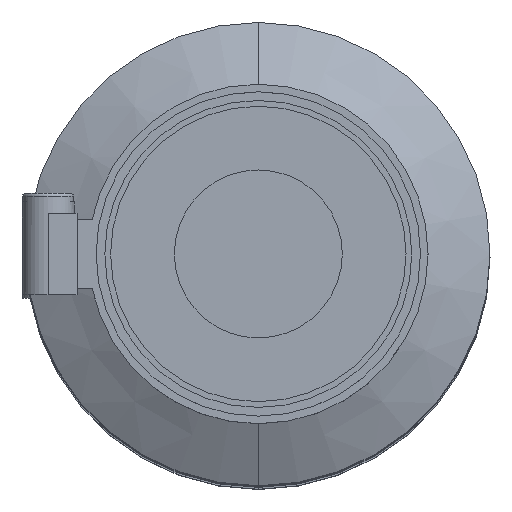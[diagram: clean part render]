
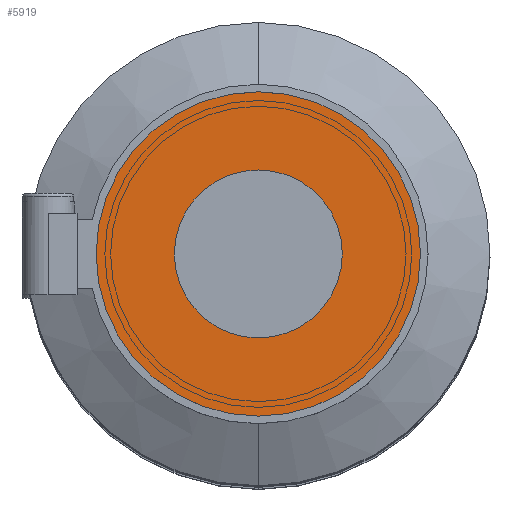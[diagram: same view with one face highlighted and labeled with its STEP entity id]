
A CAD part, top view. The second image highlights one B-rep face of the part: STEP entity #5919.
In plain terms, the highlighted planar face has unit normal (0, 0, 1).
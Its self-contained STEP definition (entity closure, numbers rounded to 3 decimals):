
#56 = CARTESIAN_POINT ( 'NONE',  ( -14.5, 0., -108. ) ) ;
#124 = EDGE_CURVE ( 'NONE', #4597, #7573, #924, .T. ) ;
#424 = CARTESIAN_POINT ( 'NONE',  ( 14.5, 0., -108. ) ) ;
#684 = CARTESIAN_POINT ( 'NONE',  ( -28., 0., -108. ) ) ;
#726 = VERTEX_POINT ( 'NONE', #56 ) ;
#924 = CIRCLE ( 'NONE', #7417, 28. ) ;
#1082 = EDGE_CURVE ( 'NONE', #7573, #4597, #1209, .T. ) ;
#1209 = CIRCLE ( 'NONE', #3450, 28. ) ;
#1380 = EDGE_CURVE ( 'NONE', #1626, #726, #7886, .T. ) ;
#1521 = CARTESIAN_POINT ( 'NONE',  ( 28., 0., -108. ) ) ;
#1626 = VERTEX_POINT ( 'NONE', #424 ) ;
#1711 = EDGE_LOOP ( 'NONE', ( #2153, #5871 ) ) ;
#1796 = DIRECTION ( 'NONE',  ( 0., 0., -1. ) ) ;
#2153 = ORIENTED_EDGE ( 'NONE', *, *, #1082, .F. ) ;
#2604 = EDGE_LOOP ( 'NONE', ( #7574, #4488 ) ) ;
#2624 = CARTESIAN_POINT ( 'NONE',  ( 0., 0., -108. ) ) ;
#2685 = DIRECTION ( 'NONE',  ( -1., 0., 0. ) ) ;
#3118 = DIRECTION ( 'NONE',  ( -1., 0., 0. ) ) ;
#3135 = FACE_BOUND ( 'NONE', #2604, .T. ) ;
#3246 = DIRECTION ( 'NONE',  ( 0., 0., -1. ) ) ;
#3334 = DIRECTION ( 'NONE',  ( -1., 0., 0. ) ) ;
#3450 = AXIS2_PLACEMENT_3D ( 'NONE', #5587, #1796, #6775 ) ;
#3754 = DIRECTION ( 'NONE',  ( -1., 0., 0. ) ) ;
#3773 = CARTESIAN_POINT ( 'NONE',  ( 0., 0., -108. ) ) ;
#4488 = ORIENTED_EDGE ( 'NONE', *, *, #7981, .T. ) ;
#4597 = VERTEX_POINT ( 'NONE', #684 ) ;
#5059 = PLANE ( 'NONE',  #5435 ) ;
#5080 = AXIS2_PLACEMENT_3D ( 'NONE', #2624, #7640, #3334 ) ;
#5435 = AXIS2_PLACEMENT_3D ( 'NONE', #3773, #5613, #3754 ) ;
#5587 = CARTESIAN_POINT ( 'NONE',  ( 0., 0., -108. ) ) ;
#5613 = DIRECTION ( 'NONE',  ( 0., 0., -1. ) ) ;
#5633 = DIRECTION ( 'NONE',  ( 0., 0., -1. ) ) ;
#5871 = ORIENTED_EDGE ( 'NONE', *, *, #124, .F. ) ;
#5919 = ADVANCED_FACE ( 'NONE', ( #6459, #3135 ), #5059, .F. ) ;
#6053 = CIRCLE ( 'NONE', #6991, 14.5 ) ;
#6459 = FACE_OUTER_BOUND ( 'NONE', #1711, .T. ) ;
#6477 = CARTESIAN_POINT ( 'NONE',  ( 0., 0., -108. ) ) ;
#6775 = DIRECTION ( 'NONE',  ( -1., 0., 0. ) ) ;
#6991 = AXIS2_PLACEMENT_3D ( 'NONE', #6477, #3246, #2685 ) ;
#7417 = AXIS2_PLACEMENT_3D ( 'NONE', #7504, #5633, #3118 ) ;
#7504 = CARTESIAN_POINT ( 'NONE',  ( 0., 0., -108. ) ) ;
#7573 = VERTEX_POINT ( 'NONE', #1521 ) ;
#7574 = ORIENTED_EDGE ( 'NONE', *, *, #1380, .T. ) ;
#7640 = DIRECTION ( 'NONE',  ( 0., 0., -1. ) ) ;
#7886 = CIRCLE ( 'NONE', #5080, 14.5 ) ;
#7981 = EDGE_CURVE ( 'NONE', #726, #1626, #6053, .T. ) ;
